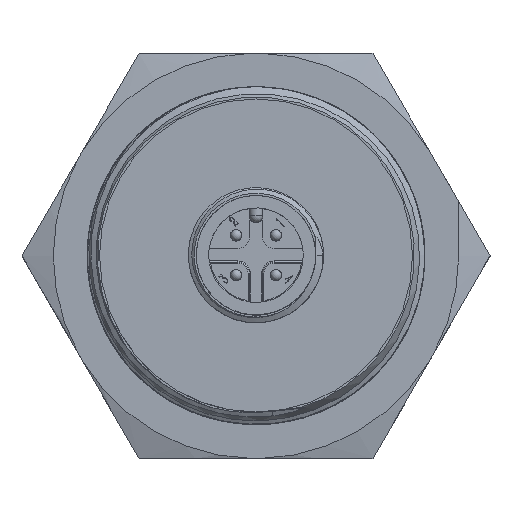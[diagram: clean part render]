
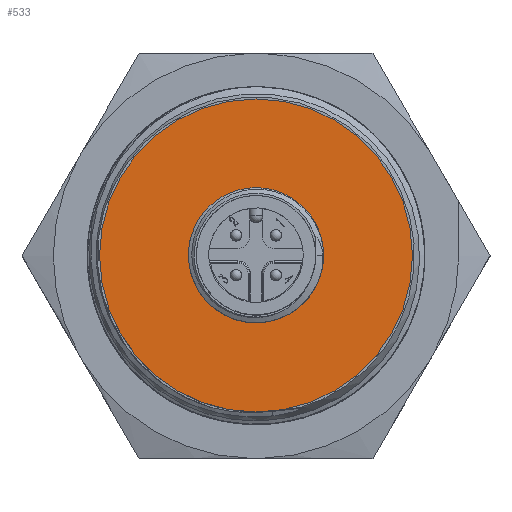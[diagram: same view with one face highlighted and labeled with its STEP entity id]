
A CAD part, top view. The second image highlights one B-rep face of the part: STEP entity #533.
In plain terms, the highlighted planar face has unit normal (0, 0, 1).
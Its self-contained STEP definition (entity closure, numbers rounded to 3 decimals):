
#204=PLANE('',#4619);
#533=ADVANCED_FACE('NONE',(#841,#842),#204,.F.);
#841=FACE_BOUND('',#956,.T.);
#842=FACE_BOUND('',#957,.T.);
#956=EDGE_LOOP('',(#2097));
#957=EDGE_LOOP('',(#2098));
#1892=CIRCLE('',#4617,5.3);
#1893=CIRCLE('',#4618,13.9);
#2097=ORIENTED_EDGE('',*,*,#3829,.F.);
#2098=ORIENTED_EDGE('',*,*,#3830,.T.);
#3366=VERTEX_POINT('',#7413);
#3367=VERTEX_POINT('',#7415);
#3829=EDGE_CURVE('NONE',#3366,#3366,#1892,.T.);
#3830=EDGE_CURVE('NONE',#3367,#3367,#1893,.T.);
#4617=AXIS2_PLACEMENT_3D('',#7412,#4998,#4999);
#4618=AXIS2_PLACEMENT_3D('',#7414,#5000,#5001);
#4619=AXIS2_PLACEMENT_3D('',#7416,#5002,#5003);
#4998=DIRECTION('',(0.,0.,1.));
#4999=DIRECTION('',(1.,0.,0.));
#5000=DIRECTION('',(0.,0.,1.));
#5001=DIRECTION('',(1.,0.,0.));
#5002=DIRECTION('',(0.,0.,-1.));
#5003=DIRECTION('',(-1.,0.,0.));
#7412=CARTESIAN_POINT('',(7.673,-2.636,23.908));
#7413=CARTESIAN_POINT('',(12.973,-2.636,23.908));
#7414=CARTESIAN_POINT('',(7.673,-2.636,23.908));
#7415=CARTESIAN_POINT('',(21.573,-2.636,23.908));
#7416=CARTESIAN_POINT('',(7.673,-2.636,23.908));
